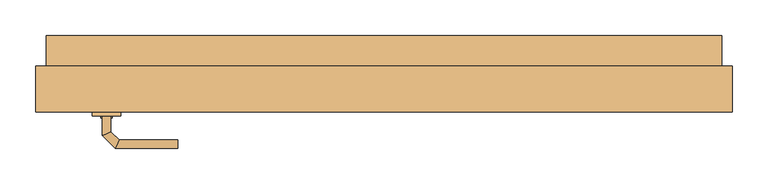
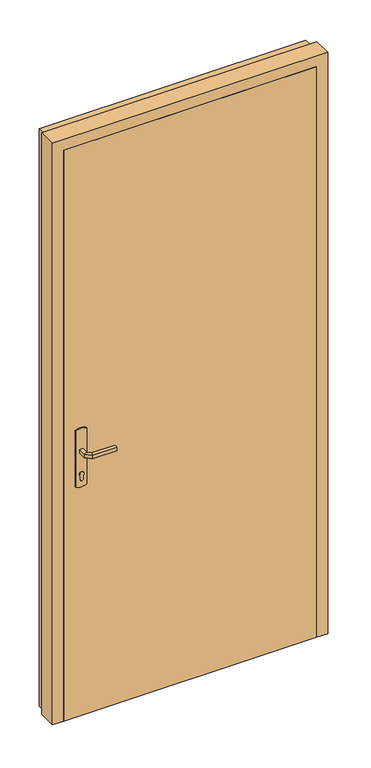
"""IFC4 building model written with IfcOpenShell, lengths in millimetres: door geometry, Entrée (avec angle d'ouverture) : PP Lisse (0.90 m x 2.15 m)."""

from ifc_helpers import new_model, si_unit, point, frame, frame_2d, origin, origin_with_axes, place, context, project, spatial, polyline, circle_curve, ellipse_curve, trimmed, segment, composite_curve, outline, extrude, faceted_brep, source, transform, mapped, element, save
from ifc_brep_helpers import plane_surface, cylinder_surface, advanced_brep


def door_6208809c(model_context):
    return source(origin(), model_context, "Body", "SolidModel", [
        extrude(outline(composite_curve([segment(trimmed(circle_curve(frame_2d((904.6410162, -400.0)), 40.0), [point((870.0, -420.0))], [point((870.0, -380.0))], False, "CARTESIAN"), True, "CONTINUOUS"), segment(polyline([(870.0, -380.0), (1080.0, -380.0)]), True, "CONTINUOUS"), segment(trimmed(circle_curve(frame_2d((1045.3589838, -400.0)), 40.0), [point((1080.0, -380.0))], [point((1080.0, -420.0))], False, "CARTESIAN"), True, "CONTINUOUS"), segment(polyline([(1080.0, -420.0), (870.0, -420.0)]), True, "CONTINUOUS")], self_intersect=False)), frame((0.0, -113.0, 0.0), z_axis=(0.0, 1.0, 0.0), x_axis=(0.0, 0.0, 1.0)), (0.0, 0.0, 1.0), 5.0),
        extrude(outline(composite_curve([segment(trimmed(circle_curve(frame_2d((1045.3589838, -400.0)), 40.0), [point((1080.0, -380.0))], [point((1080.0, -420.0))], False, "CARTESIAN"), True, "CONTINUOUS"), segment(polyline([(1080.0, -420.0), (870.0, -420.0)]), True, "CONTINUOUS"), segment(trimmed(circle_curve(frame_2d((904.6410162, -400.0)), 40.0), [point((870.0, -420.0))], [point((870.0, -380.0))], False, "CARTESIAN"), True, "CONTINUOUS"), segment(polyline([(870.0, -380.0), (1080.0, -380.0)]), True, "CONTINUOUS")], self_intersect=False)), frame((0.0, -58.0, 0.0), z_axis=(0.0, 1.0, 0.0), x_axis=(0.0, 0.0, 1.0)), (0.0, 0.0, 1.0), 5.0),
        advanced_brep(
        [(-406.0, -113.0, 1007.0), (-394.0, -113.0, 1007.0), (-394.0, -113.0, 993.0), (-406.0, -113.0, 993.0), (-406.0, -140.6509507, 1007.0), (-394.0, -135.680388, 1007.0), (-394.0, -135.680388, 993.0), (-406.0, -140.6509507, 993.0), (-387.62279, -159.0281607, 1007.0), (-382.6522273, -147.0281607, 1007.0), (-382.6522273, -147.0281607, 993.0), (-387.62279, -159.0281607, 993.0), (-299.9813594, -159.0281607, 1007.0), (-299.9813594, -159.0281607, 993.0), (-299.9813594, -147.0281607, 993.0), (-299.9813594, -147.0281607, 1007.0)],
        [
            (0, 1, circle_curve(frame((-400.0, -113.0, 986.9542278), z_axis=(0.0, 1.0, 0.0), x_axis=(1.0, 0.0, 0.0)), 20.9244589)),
            (1, 2),
            (2, 3, circle_curve(frame((-400.0, -113.0, 1013.0457722), z_axis=(0.0, 1.0, 0.0), x_axis=(1.0, 0.0, 0.0)), 20.9244589)),
            (3, 0),
            (0, 4),
            (4, 5, ellipse_curve(frame((-400.0, -138.1656693, 986.9542278), z_axis=(-0.3826834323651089, 0.9238795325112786, 0.0), x_axis=(0.9238795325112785, 0.3826834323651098, 0.0)), 22.6484711, 20.9244589)),
            (5, 1),
            (5, 6),
            (6, 2),
            (6, 7, ellipse_curve(frame((-400.0, -138.1656693, 1013.0457722), z_axis=(-0.3826834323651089, 0.9238795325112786, 0.0), x_axis=(0.9238795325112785, 0.3826834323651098, 0.0)), 22.6484711, 20.9244589)),
            (7, 3),
            (7, 4),
            (4, 8),
            (8, 9, ellipse_curve(frame((-385.1375087, -153.0281607, 986.9542278), z_axis=(-0.9238795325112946, 0.38268343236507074, 0.0), x_axis=(0.3826834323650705, 0.9238795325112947, 0.0)), 22.6484711, 20.9244589)),
            (9, 5),
            (9, 10),
            (10, 6),
            (10, 11, ellipse_curve(frame((-385.1375087, -153.0281607, 1013.0457722), z_axis=(-0.9238795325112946, 0.38268343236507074, 0.0), x_axis=(0.3826834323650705, 0.9238795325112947, 0.0)), 22.6484711, 20.9244589)),
            (11, 7),
            (11, 8),
            (12, 13),
            (13, 14, circle_curve(frame((-299.9813594, -153.0281607, 1013.0457722), z_axis=(1.0, 0.0, 0.0), x_axis=(0.0, 1.0, 0.0)), 20.9244589)),
            (14, 15),
            (15, 12, circle_curve(frame((-299.9813594, -153.0281607, 986.9542278), z_axis=(1.0, 0.0, 0.0), x_axis=(0.0, 1.0, 0.0)), 20.9244589)),
            (8, 12),
            (15, 9),
            (14, 10),
            (13, 11),
        ],
        [
            plane_surface(frame((-409.2195445, -113.0, 1000.0), z_axis=(0.0, 1.0, 0.0), x_axis=(0.0, 0.0, -1.0))),
            cylinder_surface(frame((-400.0, -113.0, 986.9542278), z_axis=(0.0, 1.0, 0.0), x_axis=(1.0, 0.0, 0.0)), 20.9244589),
            plane_surface(frame((-394.0, -113.0, 1007.0), z_axis=(1.0, 0.0, 0.0), x_axis=(0.0, -1.0, 0.0))),
            cylinder_surface(frame((-400.0, -113.0, 1013.0457722), z_axis=(0.0, 1.0, 0.0), x_axis=(1.0, 0.0, 0.0)), 20.9244589),
            plane_surface(frame((-406.0, -113.0, 993.0), z_axis=(-1.0, 0.0, 0.0), x_axis=(0.0, -1.0, 0.0))),
            cylinder_surface(frame((-400.0, -138.1656693, 986.9542278), z_axis=(-0.7071067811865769, 0.7071067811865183, 0.0), x_axis=(0.7071067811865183, 0.7071067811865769, 0.0)), 20.9244589),
            plane_surface(frame((-394.0, -135.680388, 1007.0), z_axis=(0.7071067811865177, 0.7071067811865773, 0.0), x_axis=(0.7071067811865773, -0.7071067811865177, 0.0))),
            cylinder_surface(frame((-400.0, -138.1656693, 1013.0457722), z_axis=(-0.7071067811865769, 0.7071067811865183, 0.0), x_axis=(0.7071067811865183, 0.7071067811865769, 0.0)), 20.9244589),
            plane_surface(frame((-406.0, -140.6509507, 993.0), z_axis=(-0.7071067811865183, -0.7071067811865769, 0.0), x_axis=(0.7071067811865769, -0.7071067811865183, 0.0))),
            plane_surface(frame((-299.9813594, -153.0281607, 990.7804555), z_axis=(1.0, 0.0, 0.0), x_axis=(0.0, 1.0, 0.0))),
            cylinder_surface(frame((-385.1375087, -153.0281607, 986.9542278), z_axis=(-1.0, 0.0, 0.0), x_axis=(0.0, 1.0, 0.0)), 20.9244589),
            plane_surface(frame((-382.6522273, -147.0281607, 1007.0), z_axis=(0.0, 1.0, 0.0), x_axis=(1.0, 0.0, 0.0))),
            cylinder_surface(frame((-385.1375087, -153.0281607, 1013.0457722), z_axis=(-1.0, 0.0, 0.0), x_axis=(0.0, 1.0, 0.0)), 20.9244589),
            plane_surface(frame((-387.62279, -159.0281607, 993.0), z_axis=(0.0, -1.0, 0.0), x_axis=(1.0, 0.0, 0.0))),
        ],
        [
            (0, [[1, 2, 3, 4]]),
            (1, [[-1, 5, 6, 7]]),
            (2, [[-2, -7, 8, 9]]),
            (3, [[-3, -9, 10, 11]]),
            (4, [[-4, -11, 12, -5]]),
            (5, [[-6, 13, 14, 15]]),
            (6, [[-8, -15, 16, 17]]),
            (7, [[-10, -17, 18, 19]]),
            (8, [[-12, -19, 20, -13]]),
            (9, [[21, 22, 23, 24]]),
            (10, [[-14, 25, -24, 26]]),
            (11, [[-16, -26, -23, 27]]),
            (12, [[-18, -27, -22, 28]]),
            (13, [[-20, -28, -21, -25]]),
        ],
    ),
        advanced_brep(
        [(-394.0, -53.0, 993.0), (-394.0, -53.0, 1007.0), (-406.0, -53.0, 1007.0), (-406.0, -53.0, 993.0), (-394.0, -30.5147955, 993.0), (-394.0, -30.5147955, 1007.0), (-406.0, -25.5442327, 1007.0), (-406.0, -25.5442327, 993.0), (-382.5147186, -19.0295141, 993.0), (-382.5147186, -19.0295141, 1007.0), (-387.4852814, -7.0295141, 1007.0), (-387.4852814, -7.0295141, 993.0), (-299.9542164, -19.0295141, 993.0), (-299.9542164, -7.0295141, 993.0), (-299.9542164, -7.0295141, 1007.0), (-299.9542164, -19.0295141, 1007.0)],
        [
            (0, 1),
            (1, 2, circle_curve(frame((-400.0, -53.0, 986.9542278), z_axis=(0.0, -1.0, 0.0), x_axis=(-1.0, 0.0, 0.0)), 20.9244589)),
            (2, 3),
            (3, 0, circle_curve(frame((-400.0, -53.0, 1013.0457722), z_axis=(0.0, -1.0, 0.0), x_axis=(-1.0, 0.0, 0.0)), 20.9244589)),
            (0, 4),
            (4, 5),
            (5, 1),
            (5, 6, ellipse_curve(frame((-400.0, -28.0295141, 986.9542278), z_axis=(-0.3826834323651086, -0.923879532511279, 0.0), x_axis=(0.9238795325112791, -0.3826834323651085, 0.0)), 22.6484711, 20.9244589)),
            (6, 2),
            (6, 7),
            (7, 3),
            (7, 4, ellipse_curve(frame((-400.0, -28.0295141, 1013.0457722), z_axis=(-0.3826834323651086, -0.923879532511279, 0.0), x_axis=(0.9238795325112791, -0.3826834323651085, 0.0)), 22.6484711, 20.9244589)),
            (4, 8),
            (8, 9),
            (9, 5),
            (9, 10, ellipse_curve(frame((-385.0, -13.0295141, 986.9542278), z_axis=(-0.9238795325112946, -0.38268343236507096, 0.0), x_axis=(0.3826834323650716, -0.9238795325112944, 0.0)), 22.6484711, 20.9244589)),
            (10, 6),
            (10, 11),
            (11, 7),
            (11, 8, ellipse_curve(frame((-385.0, -13.0295141, 1013.0457722), z_axis=(-0.9238795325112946, -0.38268343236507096, 0.0), x_axis=(0.3826834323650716, -0.9238795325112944, 0.0)), 22.6484711, 20.9244589)),
            (12, 13, circle_curve(frame((-299.9542164, -13.0295141, 1013.0457722), z_axis=(1.0, 0.0, 0.0), x_axis=(0.0, 1.0, 0.0)), 20.9244589)),
            (13, 14),
            (14, 15, circle_curve(frame((-299.9542164, -13.0295141, 986.9542278), z_axis=(1.0, 0.0, 0.0), x_axis=(0.0, 1.0, 0.0)), 20.9244589)),
            (15, 12),
            (8, 12),
            (15, 9),
            (14, 10),
            (13, 11),
        ],
        [
            plane_surface(frame((-409.2195445, -53.0, 1000.0), z_axis=(0.0, -1.0, 0.0), x_axis=(0.0, 0.0, 1.0))),
            plane_surface(frame((-394.0, -53.0, 993.0), z_axis=(1.0, 0.0, 0.0), x_axis=(0.0, 1.0, 0.0))),
            cylinder_surface(frame((-400.0, -53.0, 986.9542278), z_axis=(0.0, -1.0, 0.0), x_axis=(-1.0, 0.0, 0.0)), 20.9244589),
            plane_surface(frame((-406.0, -53.0, 1007.0), z_axis=(-1.0, 0.0, 0.0), x_axis=(0.0, 1.0, 0.0))),
            cylinder_surface(frame((-400.0, -53.0, 1013.0457722), z_axis=(0.0, -1.0, 0.0), x_axis=(-1.0, 0.0, 0.0)), 20.9244589),
            plane_surface(frame((-394.0, -30.5147955, 993.0), z_axis=(0.7071067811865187, -0.7071067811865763, 0.0), x_axis=(0.7071067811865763, 0.7071067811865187, 0.0))),
            cylinder_surface(frame((-400.0, -28.0295141, 986.9542278), z_axis=(-0.7071067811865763, -0.7071067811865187, 0.0), x_axis=(-0.7071067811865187, 0.7071067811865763, 0.0)), 20.9244589),
            plane_surface(frame((-406.0, -25.5442327, 1007.0), z_axis=(-0.7071067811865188, 0.7071067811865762, 0.0), x_axis=(0.7071067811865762, 0.7071067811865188, 0.0))),
            cylinder_surface(frame((-400.0, -28.0295141, 1013.0457722), z_axis=(-0.7071067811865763, -0.7071067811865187, 0.0), x_axis=(-0.7071067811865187, 0.7071067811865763, 0.0)), 20.9244589),
            plane_surface(frame((-299.9542164, -13.0295141, 990.7804555), z_axis=(1.0, 0.0, 0.0), x_axis=(0.0, 1.0, 0.0))),
            plane_surface(frame((-382.5147186, -19.0295141, 993.0), z_axis=(0.0, -1.0, 0.0), x_axis=(1.0, 0.0, 0.0))),
            cylinder_surface(frame((-385.0, -13.0295141, 986.9542278), z_axis=(-1.0, 0.0, 0.0), x_axis=(0.0, 1.0, 0.0)), 20.9244589),
            plane_surface(frame((-387.4852814, -7.0295141, 1007.0), z_axis=(0.0, 1.0, 0.0), x_axis=(1.0, 0.0, 0.0))),
            cylinder_surface(frame((-385.0, -13.0295141, 1013.0457722), z_axis=(-1.0, 0.0, 0.0), x_axis=(0.0, 1.0, 0.0)), 20.9244589),
        ],
        [
            (0, [[1, 2, 3, 4]]),
            (1, [[-1, 5, 6, 7]]),
            (2, [[-2, -7, 8, 9]]),
            (3, [[-3, -9, 10, 11]]),
            (4, [[-4, -11, 12, -5]]),
            (5, [[-6, 13, 14, 15]]),
            (6, [[-8, -15, 16, 17]]),
            (7, [[-10, -17, 18, 19]]),
            (8, [[-12, -19, 20, -13]]),
            (9, [[21, 22, 23, 24]]),
            (10, [[-14, 25, -24, 26]]),
            (11, [[-16, -26, -23, 27]]),
            (12, [[-18, -27, -22, 28]]),
            (13, [[-20, -28, -21, -25]]),
        ],
    ),
        extrude(outline(composite_curve([segment(polyline([(908.0464422, -405.0), (895.0, -405.0)]), True, "CONTINUOUS"), segment(trimmed(circle_curve(frame_2d((895.0, -400.0)), 5.0), [point((895.0, -405.0))], [point((895.0, -395.0))], False, "CARTESIAN"), True, "CONTINUOUS"), segment(polyline([(895.0, -395.0), (908.0464422, -395.0)]), True, "CONTINUOUS"), segment(trimmed(circle_curve(frame_2d((914.2914402, -400.0)), 8.0), [point((908.0464422, -395.0))], [point((908.0464422, -405.0))], False, "CARTESIAN"), True, "CONTINUOUS")], self_intersect=False)), frame((0.0, -116.0, 0.0), z_axis=(0.0, 1.0, 0.0), x_axis=(0.0, 0.0, 1.0)), (0.0, 0.0, 1.0), 3.0),
        extrude(outline(composite_curve([segment(polyline([(908.0464422, -405.0), (895.0, -405.0)]), True, "CONTINUOUS"), segment(trimmed(circle_curve(frame_2d((895.0, -400.0)), 5.0), [point((895.0, -405.0))], [point((895.0, -395.0))], False, "CARTESIAN"), True, "CONTINUOUS"), segment(polyline([(895.0, -395.0), (908.0464422, -395.0)]), True, "CONTINUOUS"), segment(trimmed(circle_curve(frame_2d((914.2914402, -400.0)), 8.0), [point((908.0464422, -395.0))], [point((908.0464422, -405.0))], False, "CARTESIAN"), True, "CONTINUOUS")], self_intersect=False)), frame((0.0, -53.0, 0.0), z_axis=(0.0, 1.0, 0.0), x_axis=(0.0, 0.0, 1.0)), (0.0, 0.0, 1.0), 5.0),
        extrude(outline(polyline([(440.0, -108.0), (-460.0, -108.0), (-460.0, -58.0), (440.0, -58.0), (440.0, -108.0)])), origin_with_axes(), (0.0, 0.0, 1.0), 2150.0),
        faceted_brep([(-440.0, -58.0, 0.0), (420.0, -58.0, 0.0), (420.0, -58.0, 150.0), (410.0, -58.0, 160.0), (-430.0, -58.0, 160.0), (-440.0, -58.0, 150.0), (420.0, -43.0, 0.0), (-440.0, -43.0, 0.0), (-440.0, -43.0, 150.0), (420.0, -43.0, 150.0), (410.0, -53.0, 160.0), (-430.0, -53.0, 160.0)], [[[0, 1, 2, 3, 4, 5]], [[6, 7, 8, 9]], [[7, 0, 5, 8]], [[1, 0, 7, 6]], [[1, 6, 9, 2]], [[4, 3, 10, 11]], [[9, 10, 3, 2]], [[10, 9, 8, 11]], [[11, 8, 5, 4]]]),
        faceted_brep([(-500.0, -43.0, 0.0), (-445.0, -43.0, 0.0), (-445.0, -58.0, 0.0), (-460.0, -58.0, 0.0), (-460.0, -108.0, 0.0), (-500.0, -108.0, 0.0), (-500.0, -43.0, 2190.0), (480.0, -43.0, 2190.0), (480.0, -43.0, 0.0), (425.0, -43.0, 0.0), (425.0, -43.0, 2135.0), (-445.0, -43.0, 2135.0), (-445.0, -58.0, 2135.0), (425.0, -58.0, 2135.0), (425.0, -58.0, 0.0), (440.0, -58.0, 0.0), (440.0, -58.0, 2150.0), (-460.0, -58.0, 2150.0), (-460.0, -108.0, 2150.0), (440.0, -108.0, 2150.0), (440.0, -108.0, 0.0), (480.0, -108.0, 0.0), (480.0, -108.0, 2190.0), (-500.0, -108.0, 2190.0)], [[[0, 1, 2, 3, 4, 5]], [[1, 0, 6, 7, 8, 9, 10, 11]], [[2, 1, 11, 12]], [[3, 2, 12, 13, 14, 15, 16, 17]], [[4, 3, 17, 18]], [[5, 4, 18, 19, 20, 21, 22, 23]], [[0, 5, 23, 6]], [[7, 22, 21, 8]], [[8, 21, 20, 15, 14, 9]], [[13, 10, 9, 14]], [[19, 16, 15, 20]], [[12, 11, 10, 13]], [[18, 17, 16, 19]], [[6, 23, 22, 7]]]),
        extrude(outline(polyline([(0.0, -485.0), (0.0, -470.0), (2160.0, -470.0), (2160.0, 450.0), (0.0, 450.0), (0.0, 465.0), (2175.0, 465.0), (2175.0, -485.0), (0.0, -485.0)])), frame((0.0, -43.0, 0.0), z_axis=(0.0, 1.0, 0.0), x_axis=(0.0, 0.0, 1.0)), (0.0, 0.0, 1.0), 43.0),
    ])


if __name__ == "__main__":
    model = new_model("IFC4")
    model_context = context("Model", 3, world=origin())
    ifc_project = project(units=[si_unit("LENGTHUNIT", "METRE", prefix="MILLI")], contexts=[model_context])
    site = spatial("IfcSite", under=ifc_project)
    building = spatial("IfcBuilding", under=site)
    placement = place(None, origin())
    door_shape = door_6208809c(model_context)
    element("IfcDoor", 1, ObjectType="Entrée (avec angle d'ouverture) : PP Lisse (0.90 m x 2.15 m)", at=placement, inside=building, context=model_context, shape_type="MappedRepresentation", body=[
        mapped(door_shape, transform((0.0, 0.0, 0.0), x_axis=(1.0, 0.0, 0.0), y_axis=(0.0, 1.0, 0.0), z_axis=(0.0, 0.0, 1.0))),
    ])
    save(model, "model.ifc")
